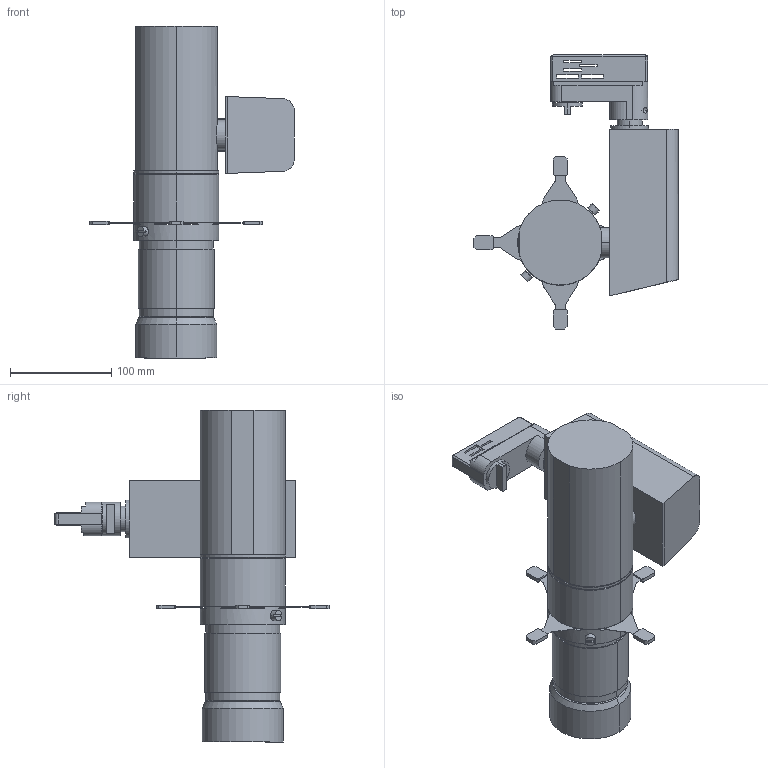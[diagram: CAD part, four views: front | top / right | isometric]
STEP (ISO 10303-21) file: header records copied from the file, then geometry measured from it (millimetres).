
FILE_DESCRIPTION (( 'STEP AP203' ), '1' );
FILE_NAME ('P1L (Track_Sidecar_W)_Hanging+19D_10-06-2026.STEP', '2026-06-11T03:26:07', ( '' ), ( '' ), 'SwSTEP 2.0', 'SolidWorks 2014', '' );
FILE_SCHEMA (( 'CONFIG_CONTROL_DESIGN' ));
Length unit declared in the file: millimetre
Products named in the file (5): P1L - Light Body_W; Sidecar_Yoke+PSU_(Track_W); P1L (Track_Sidecar_W)_Hanging+19D_10-06-2026; ONE TRACK Track Adapter_W; 19D_Fresnel Lens_P1L_W
Assembly tree (4 placements, depth 2):
  P1L (Track_Sidecar_W)_Hanging+19D_10-06-2026
    Sidecar_Yoke+PSU_(Track_W)
    P1L - Light Body_W
    19D_Fresnel Lens_P1L_W
    ONE TRACK Track Adapter_W
Bounding box: 201.56 x 270.31 x 327.5 mm (x, y, z)
Volume: 2514475.8 mm3; surface area: 207371.4 mm2
Topology: 7 solids, 7 shells, 343 faces, 890 edges, 578 vertices
Faces by surface type: plane 219, cylinder 92, cone 26, bspline 4, torus 2
Entity records: 11743 total; most frequent: CARTESIAN_POINT 2702, ORIENTED_EDGE 1780, DIRECTION 1768, EDGE_CURVE 890, AXIS2_PLACEMENT_3D 590, LINE 588, VECTOR 588, VERTEX_POINT 578
